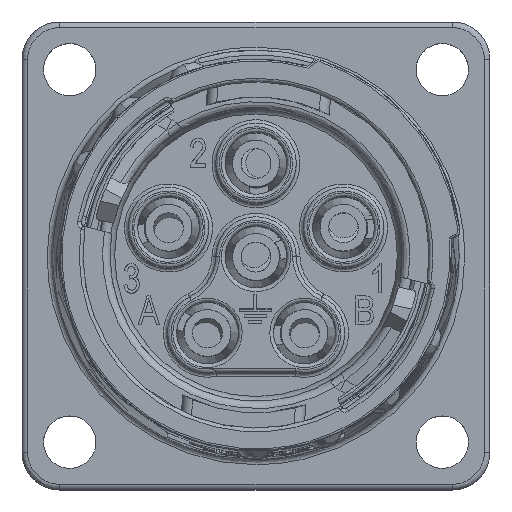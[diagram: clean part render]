
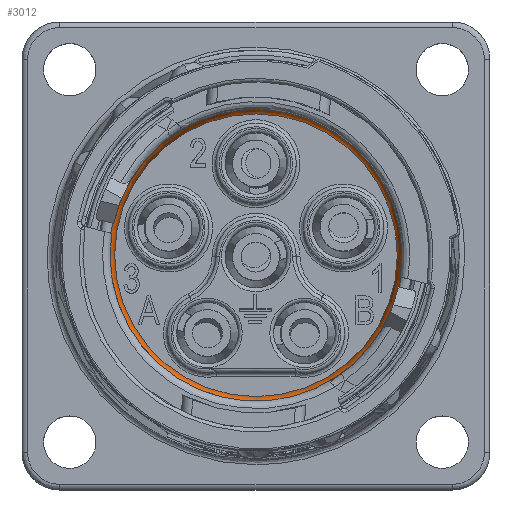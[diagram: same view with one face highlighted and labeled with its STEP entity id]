
A CAD part, top view. The second image highlights one B-rep face of the part: STEP entity #3012.
In plain terms, the highlighted toroidal (fillet/blend) face has major radius 9.08 mm and minor radius 1.53 mm.
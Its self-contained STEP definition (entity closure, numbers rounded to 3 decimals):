
#3012 = ADVANCED_FACE ( 'NONE', ( #4428, #46279 ), #18183, .T. ) ;
#3477 = EDGE_CURVE ( 'NONE', #13793, #13793, #10474, .T. ) ;
#4428 = FACE_OUTER_BOUND ( 'NONE', #27628, .T. ) ;
#8241 = AXIS2_PLACEMENT_3D ( 'NONE', #50932, #29824, #20151 ) ;
#10402 = EDGE_CURVE ( 'NONE', #43485, #43485, #29396, .T. ) ;
#10474 = CIRCLE ( 'NONE', #8241, 7.856 ) ;
#11324 = CARTESIAN_POINT ( 'NONE',  ( 24.427, 27.891, 29.943 ) ) ;
#13793 = VERTEX_POINT ( 'NONE', #67032 ) ;
#18183 = TOROIDAL_SURFACE ( 'NONE', #25912, 9.08, 1.53 ) ;
#18948 = ORIENTED_EDGE ( 'NONE', *, *, #10402, .T. ) ;
#20012 = DIRECTION ( 'NONE',  ( 0., 0., -1. ) ) ;
#20151 = DIRECTION ( 'NONE',  ( -0.172, 0.985, 0. ) ) ;
#25912 = AXIS2_PLACEMENT_3D ( 'NONE', #62861, #20012, #41080 ) ;
#27628 = EDGE_LOOP ( 'NONE', ( #18948 ) ) ;
#29396 = CIRCLE ( 'NONE', #48222, 7.856 ) ;
#29824 = DIRECTION ( 'NONE',  ( 0., 0., -1. ) ) ;
#33977 = ORIENTED_EDGE ( 'NONE', *, *, #3477, .F. ) ;
#41080 = DIRECTION ( 'NONE',  ( -0.172, 0.985, 0. ) ) ;
#43485 = VERTEX_POINT ( 'NONE', #11324 ) ;
#45794 = CARTESIAN_POINT ( 'NONE',  ( 25.781, 20.153, 29.943 ) ) ;
#46279 = FACE_OUTER_BOUND ( 'NONE', #61125, .T. ) ;
#48222 = AXIS2_PLACEMENT_3D ( 'NONE', #45794, #51318, #49968 ) ;
#49968 = DIRECTION ( 'NONE',  ( -0.172, 0.985, 0. ) ) ;
#50932 = CARTESIAN_POINT ( 'NONE',  ( 25.781, 20.153, 31.779 ) ) ;
#51318 = DIRECTION ( 'NONE',  ( 0., 0., -1. ) ) ;
#61125 = EDGE_LOOP ( 'NONE', ( #33977 ) ) ;
#62861 = CARTESIAN_POINT ( 'NONE',  ( 25.781, 20.153, 30.861 ) ) ;
#67032 = CARTESIAN_POINT ( 'NONE',  ( 24.427, 27.891, 31.779 ) ) ;
